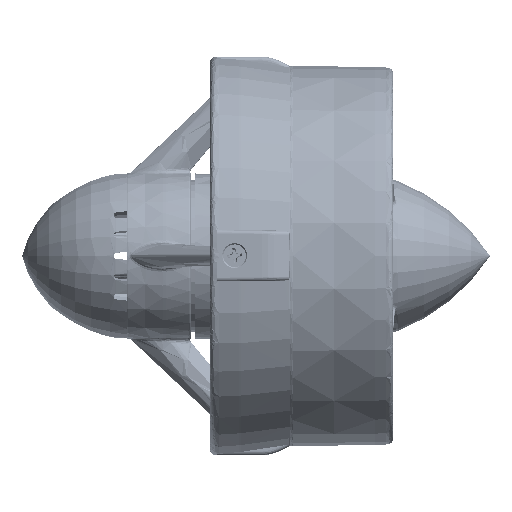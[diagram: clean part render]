
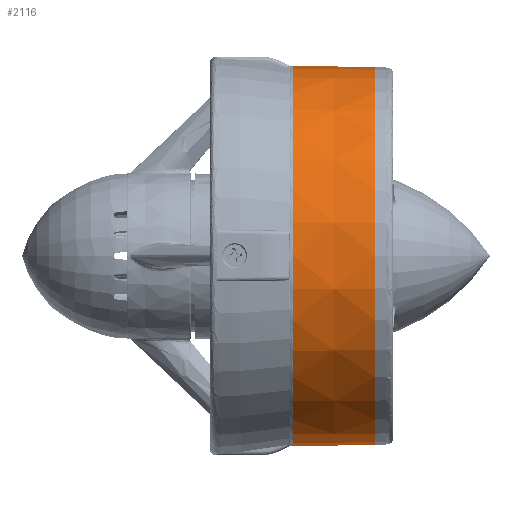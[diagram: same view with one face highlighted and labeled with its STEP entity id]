
A CAD part, top view. The second image highlights one B-rep face of the part: STEP entity #2116.
In plain terms, the highlighted conical face has half-angle 0.5 degrees and reference radius 46.022 mm.
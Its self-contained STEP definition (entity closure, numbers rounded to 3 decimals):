
#2116 = ADVANCED_FACE ( 'NONE', ( #114308 ), #4458, .T. ) ;
#2847 = CARTESIAN_POINT ( 'NONE',  ( -2.118, 0., 0. ) ) ;
#4458 = CONICAL_SURFACE ( 'NONE', #45817, 46.022, 0.009 ) ;
#8366 = EDGE_CURVE ( 'NONE', #93828, #79666, #63031, .T. ) ;
#8936 = CARTESIAN_POINT ( 'NONE',  ( 18.202, 0., 0. ) ) ;
#18218 = DIRECTION ( 'NONE',  ( -1., 0., 0. ) ) ;
#23484 = CARTESIAN_POINT ( 'NONE',  ( -1.659, 0., 0. ) ) ;
#24563 = CARTESIAN_POINT ( 'NONE',  ( -2.118, 0., -46.022 ) ) ;
#28410 = AXIS2_PLACEMENT_3D ( 'NONE', #8936, #44866, #90235 ) ;
#30352 = CARTESIAN_POINT ( 'NONE',  ( 18.202, 0., -45.845 ) ) ;
#33985 = DIRECTION ( 'NONE',  ( -1., 0., -0.009 ) ) ;
#34561 = LINE ( 'NONE', #24563, #66294 ) ;
#35926 = EDGE_CURVE ( 'NONE', #68282, #79666, #34561, .T. ) ;
#44084 = ORIENTED_EDGE ( 'NONE', *, *, #76840, .T. ) ;
#44866 = DIRECTION ( 'NONE',  ( -1., 0., 0. ) ) ;
#45817 = AXIS2_PLACEMENT_3D ( 'NONE', #2847, #18218, #63560 ) ;
#55546 = AXIS2_PLACEMENT_3D ( 'NONE', #23484, #114785, #86520 ) ;
#56525 = CIRCLE ( 'NONE', #28410, 45.845 ) ;
#59111 = LINE ( 'NONE', #95672, #59740 ) ;
#59740 = VECTOR ( 'NONE', #76816, 1000. ) ;
#63031 = CIRCLE ( 'NONE', #55546, 46.018 ) ;
#63560 = DIRECTION ( 'NONE',  ( 0., 0., 1. ) ) ;
#66294 = VECTOR ( 'NONE', #33985, 1000. ) ;
#68282 = VERTEX_POINT ( 'NONE', #30352 ) ;
#68593 = ORIENTED_EDGE ( 'NONE', *, *, #35926, .F. ) ;
#70940 = CARTESIAN_POINT ( 'NONE',  ( -1.659, 0., -46.018 ) ) ;
#73833 = ORIENTED_EDGE ( 'NONE', *, *, #102678, .T. ) ;
#74431 = CARTESIAN_POINT ( 'NONE',  ( -1.659, 0., 46.018 ) ) ;
#76816 = DIRECTION ( 'NONE',  ( -1., 0., 0.009 ) ) ;
#76840 = EDGE_CURVE ( 'NONE', #77949, #93828, #59111, .T. ) ;
#77949 = VERTEX_POINT ( 'NONE', #101771 ) ;
#79666 = VERTEX_POINT ( 'NONE', #70940 ) ;
#86520 = DIRECTION ( 'NONE',  ( 0., 0., 1. ) ) ;
#90235 = DIRECTION ( 'NONE',  ( 0., 0., 1. ) ) ;
#92756 = ORIENTED_EDGE ( 'NONE', *, *, #8366, .T. ) ;
#93828 = VERTEX_POINT ( 'NONE', #74431 ) ;
#95672 = CARTESIAN_POINT ( 'NONE',  ( -2.118, 0., 46.022 ) ) ;
#101771 = CARTESIAN_POINT ( 'NONE',  ( 18.202, 0., 45.845 ) ) ;
#102678 = EDGE_CURVE ( 'NONE', #68282, #77949, #56525, .T. ) ;
#102703 = EDGE_LOOP ( 'NONE', ( #68593, #73833, #44084, #92756 ) ) ;
#114308 = FACE_OUTER_BOUND ( 'NONE', #102703, .T. ) ;
#114785 = DIRECTION ( 'NONE',  ( 1., 0., 0. ) ) ;
